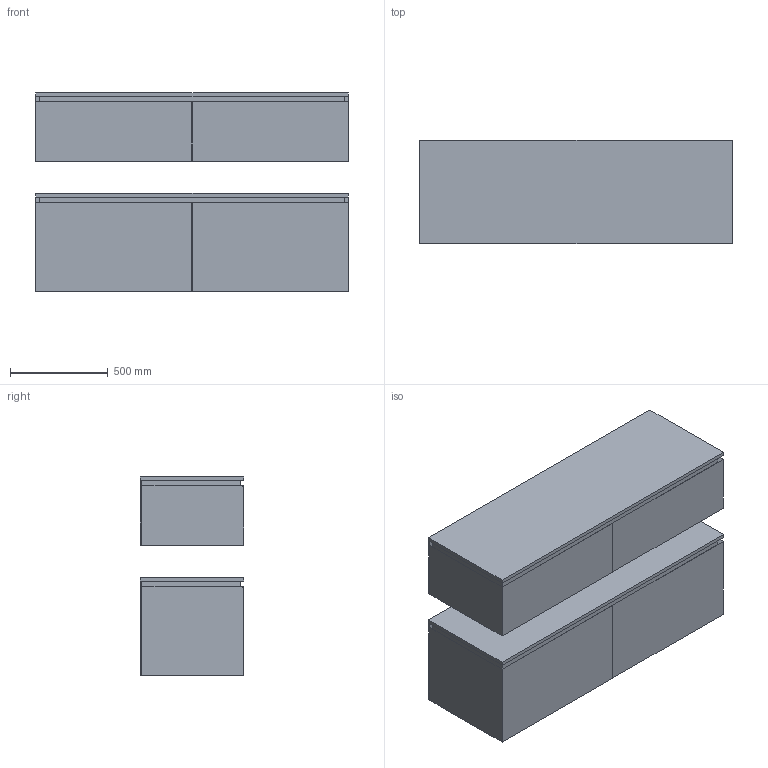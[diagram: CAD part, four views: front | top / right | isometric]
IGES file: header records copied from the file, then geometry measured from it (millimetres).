
Global section: file name: \\Archi-NAS\Comune\X GIOVANNI\MOBILI\ELEGNACE\ELEGANCE_02.igs; native system: Rhinoceros ( Feb 23 2021 ); preprocessor: Trout Lake IGES 012 Feb 23 2021; date: 230607.141833; units: millimetre
Bounding box: 1600 x 530 x 1014.5 mm (x, y, z)
Surface area: 22212253.8 mm2 (no closed solid volume)
Topology: 0 solids, 0 shells, 168 faces, 736 edges, 736 vertices
Faces by surface type: bspline 168
